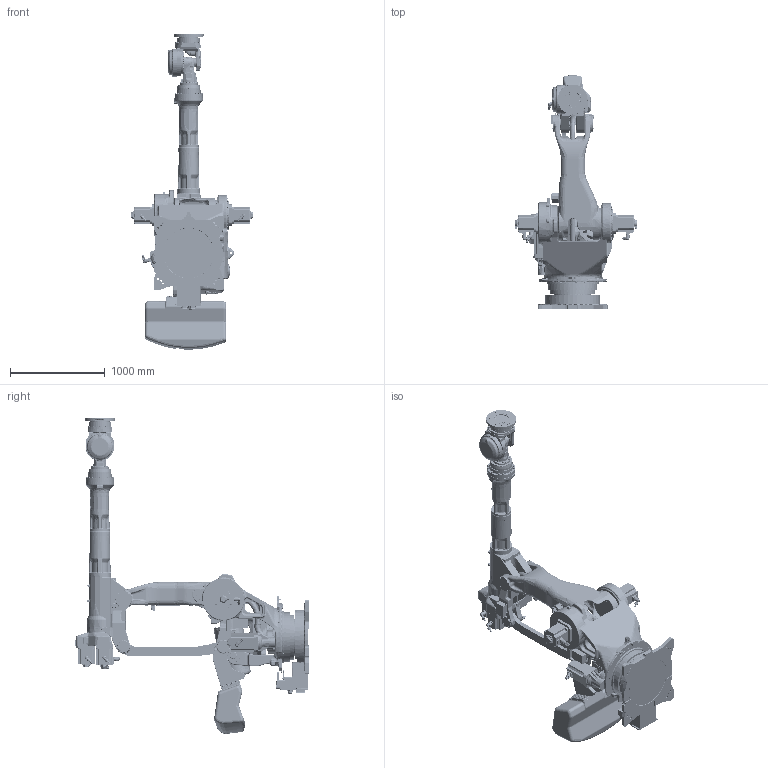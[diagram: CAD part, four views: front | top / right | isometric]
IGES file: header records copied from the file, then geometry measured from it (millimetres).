
Start section: SolidWorks IGES file using analytic representation for surfaces
Global section: file name: J:\Public\Transfer\Peikert\GP400 3D\GP400.IGS; native system: SolidWorks 2019; preprocessor: SolidWorks 2019; author: Peikert; date: 210824.094633; units: millimetre
Bounding box: 1287 x 2460 x 3322.38 mm (x, y, z)
Surface area: 17076886.9 mm2 (no closed solid volume)
Topology: 0 solids, 0 shells, 12602 faces, 149615 edges, 149319 vertices
Faces by surface type: bspline 6892, revolution 5710
